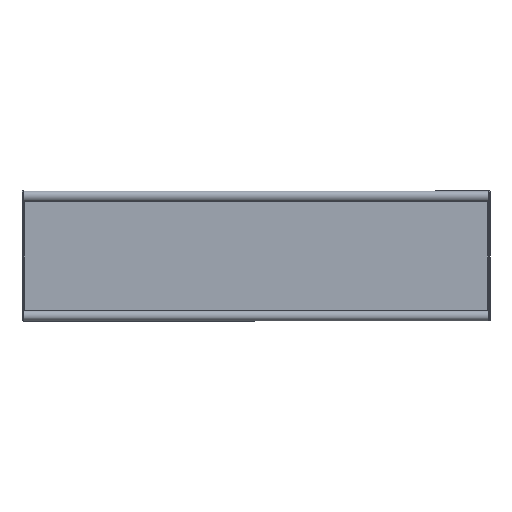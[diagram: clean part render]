
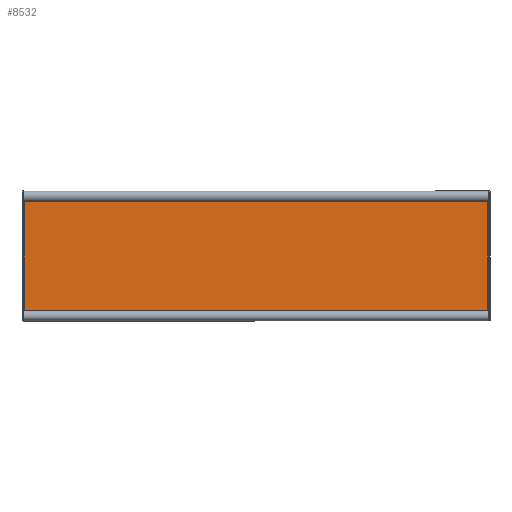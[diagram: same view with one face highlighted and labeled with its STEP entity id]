
A CAD part, front view. The second image highlights one B-rep face of the part: STEP entity #8532.
In plain terms, the highlighted planar face has unit normal (0, -1, 0).
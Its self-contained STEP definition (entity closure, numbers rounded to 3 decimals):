
#64 = ORIENTED_EDGE ( 'NONE', *, *, #1087, .F. ) ;
#124 = CIRCLE ( 'NONE', #4454, 5. ) ;
#171 = DIRECTION ( 'NONE',  ( 0., 0., 1. ) ) ;
#199 = ORIENTED_EDGE ( 'NONE', *, *, #3764, .F. ) ;
#298 = LINE ( 'NONE', #8714, #9827 ) ;
#305 = VECTOR ( 'NONE', #1340, 1000. ) ;
#344 = DIRECTION ( 'NONE',  ( 0., -1., 0. ) ) ;
#357 = EDGE_CURVE ( 'NONE', #1732, #6086, #4342, .T. ) ;
#373 = ORIENTED_EDGE ( 'NONE', *, *, #5173, .F. ) ;
#408 = DIRECTION ( 'NONE',  ( 0., 1., 0. ) ) ;
#566 = CARTESIAN_POINT ( 'NONE',  ( -449., -2., -121. ) ) ;
#718 = VECTOR ( 'NONE', #3713, 1000. ) ;
#1087 = EDGE_CURVE ( 'NONE', #7310, #4162, #3340, .T. ) ;
#1297 = DIRECTION ( 'NONE',  ( 0., 0., 1. ) ) ;
#1340 = DIRECTION ( 'NONE',  ( 0., 0., 1. ) ) ;
#1445 = EDGE_CURVE ( 'NONE', #8102, #6086, #124, .T. ) ;
#1732 = VERTEX_POINT ( 'NONE', #5948 ) ;
#1752 = AXIS2_PLACEMENT_3D ( 'NONE', #2575, #8691, #5627 ) ;
#1897 = DIRECTION ( 'NONE',  ( 0., 0., 1. ) ) ;
#2114 = DIRECTION ( 'NONE',  ( 0., -1., 0. ) ) ;
#2202 = LINE ( 'NONE', #2818, #305 ) ;
#2353 = ORIENTED_EDGE ( 'NONE', *, *, #2594, .T. ) ;
#2443 = CARTESIAN_POINT ( 'NONE',  ( 446., -2., 120. ) ) ;
#2575 = CARTESIAN_POINT ( 'NONE',  ( 449., -2., 124. ) ) ;
#2594 = EDGE_CURVE ( 'NONE', #8102, #4162, #4968, .T. ) ;
#2679 = CARTESIAN_POINT ( 'NONE',  ( 449., -2., -124. ) ) ;
#2741 = DIRECTION ( 'NONE',  ( 0., 0., 1. ) ) ;
#2818 = CARTESIAN_POINT ( 'NONE',  ( -446., -2., -124. ) ) ;
#2919 = AXIS2_PLACEMENT_3D ( 'NONE', #5901, #2114, #1297 ) ;
#3018 = CARTESIAN_POINT ( 'NONE',  ( -446., -2., -120. ) ) ;
#3321 = DIRECTION ( 'NONE',  ( 0., 0., 1. ) ) ;
#3340 = CIRCLE ( 'NONE', #1752, 5. ) ;
#3592 = EDGE_CURVE ( 'NONE', #9866, #6358, #4477, .T. ) ;
#3599 = ORIENTED_EDGE ( 'NONE', *, *, #1445, .F. ) ;
#3713 = DIRECTION ( 'NONE',  ( 1., 0., 0. ) ) ;
#3742 = ORIENTED_EDGE ( 'NONE', *, *, #3592, .F. ) ;
#3764 = EDGE_CURVE ( 'NONE', #5269, #9866, #2202, .T. ) ;
#4035 = AXIS2_PLACEMENT_3D ( 'NONE', #9476, #408, #1897 ) ;
#4162 = VERTEX_POINT ( 'NONE', #2443 ) ;
#4178 = DIRECTION ( 'NONE',  ( 1., 0., 0. ) ) ;
#4342 = LINE ( 'NONE', #566, #718 ) ;
#4454 = AXIS2_PLACEMENT_3D ( 'NONE', #2679, #344, #3321 ) ;
#4477 = CIRCLE ( 'NONE', #5445, 5. ) ;
#4627 = CARTESIAN_POINT ( 'NONE',  ( 445., -2., 121. ) ) ;
#4762 = ORIENTED_EDGE ( 'NONE', *, *, #357, .T. ) ;
#4966 = EDGE_LOOP ( 'NONE', ( #3599, #2353, #64, #7755, #3742, #199, #373, #4762 ) ) ;
#4968 = LINE ( 'NONE', #8057, #7211 ) ;
#5173 = EDGE_CURVE ( 'NONE', #1732, #5269, #6111, .T. ) ;
#5269 = VERTEX_POINT ( 'NONE', #3018 ) ;
#5445 = AXIS2_PLACEMENT_3D ( 'NONE', #6315, #7064, #171 ) ;
#5627 = DIRECTION ( 'NONE',  ( 0., 0., 1. ) ) ;
#5901 = CARTESIAN_POINT ( 'NONE',  ( -449., -2., -124. ) ) ;
#5948 = CARTESIAN_POINT ( 'NONE',  ( -445., -2., -121. ) ) ;
#6086 = VERTEX_POINT ( 'NONE', #6689 ) ;
#6111 = CIRCLE ( 'NONE', #2919, 5. ) ;
#6161 = CARTESIAN_POINT ( 'NONE',  ( -445., -2., 121. ) ) ;
#6315 = CARTESIAN_POINT ( 'NONE',  ( -449., -2., 124. ) ) ;
#6358 = VERTEX_POINT ( 'NONE', #6161 ) ;
#6689 = CARTESIAN_POINT ( 'NONE',  ( 445., -2., -121. ) ) ;
#7064 = DIRECTION ( 'NONE',  ( 0., -1., 0. ) ) ;
#7117 = CARTESIAN_POINT ( 'NONE',  ( -446., -2., 120. ) ) ;
#7211 = VECTOR ( 'NONE', #2741, 1000. ) ;
#7310 = VERTEX_POINT ( 'NONE', #4627 ) ;
#7755 = ORIENTED_EDGE ( 'NONE', *, *, #9650, .F. ) ;
#8057 = CARTESIAN_POINT ( 'NONE',  ( 446., -2., -124. ) ) ;
#8102 = VERTEX_POINT ( 'NONE', #8947 ) ;
#8532 = ADVANCED_FACE ( 'NONE', ( #9428 ), #8767, .F. ) ;
#8691 = DIRECTION ( 'NONE',  ( 0., -1., 0. ) ) ;
#8714 = CARTESIAN_POINT ( 'NONE',  ( -449., -2., 121. ) ) ;
#8767 = PLANE ( 'NONE',  #4035 ) ;
#8947 = CARTESIAN_POINT ( 'NONE',  ( 446., -2., -120. ) ) ;
#9428 = FACE_OUTER_BOUND ( 'NONE', #4966, .T. ) ;
#9476 = CARTESIAN_POINT ( 'NONE',  ( -449., -2., -124. ) ) ;
#9650 = EDGE_CURVE ( 'NONE', #6358, #7310, #298, .T. ) ;
#9827 = VECTOR ( 'NONE', #4178, 1000. ) ;
#9866 = VERTEX_POINT ( 'NONE', #7117 ) ;
